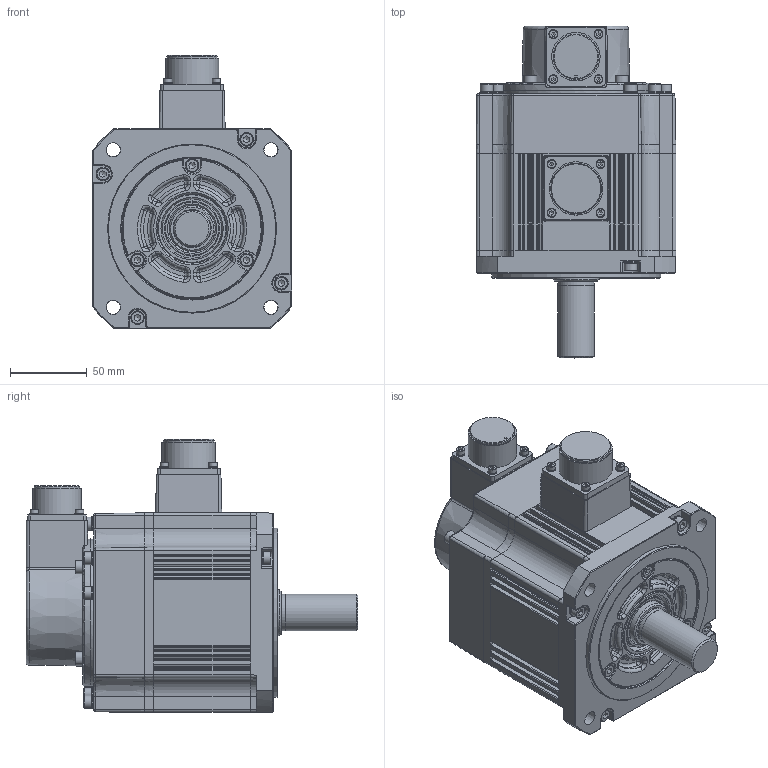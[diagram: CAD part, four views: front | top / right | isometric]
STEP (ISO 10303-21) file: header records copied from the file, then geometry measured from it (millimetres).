
FILE_DESCRIPTION((''),'2;1');
FILE_NAME('C:\Documents and Settings\11644\桌面\SME-M100B.stp','2016-07-15T19:27:36',('11644'),(''),'Autodesk Inventor 2008','Autodesk Inventor 2008','');
FILE_SCHEMA(('AUTOMOTIVE_DESIGN { 1 0 10303 214 1 1 1 1 }'));
Length unit declared in the file: millimetre
Products named in the file (2): SME-M100B; SME-M100B_74
Assembly tree (1 placements, depth 2):
  SME-M100B
    SME-M100B_74
Bounding box: 130.1 x 215.9 x 177.8 mm (x, y, z)
Volume: 2101179 mm3; surface area: 143502.3 mm2
Topology: 1 solids, 1 shells, 1071 faces, 2642 edges, 1641 vertices
Faces by surface type: plane 486, cylinder 309, torus 118, cone 84, bspline 66, sphere 8
Full cylindrical faces by diameter (mm): 5.5 x8, 5.82 x8, 8.5 x18, 8.97 x14, 23.8 x1, 24 x1, 29.5 x1, 30 x1, 31.5 x1, 33 x1, 34.7 x1, 35.319 x1, 40.504 x1, 45 x1, 92 x1, 95.8 x1, 110 x1
Entity records: 33959 total; most frequent: CARTESIAN_POINT 8839, DIRECTION 5009, ORIENTED_EDGE 4750, EDGE_CURVE 2375, AXIS2_PLACEMENT_3D 1898, VERTEX_POINT 1556, EDGE_LOOP 1329, VECTOR 1213
